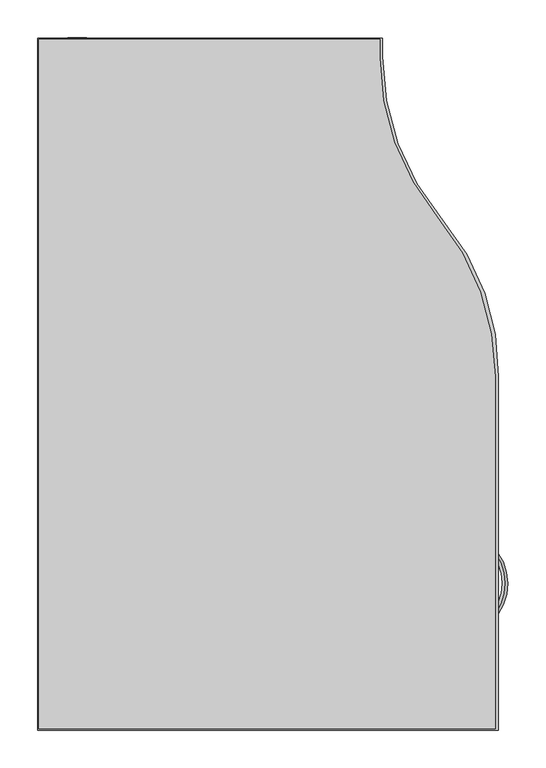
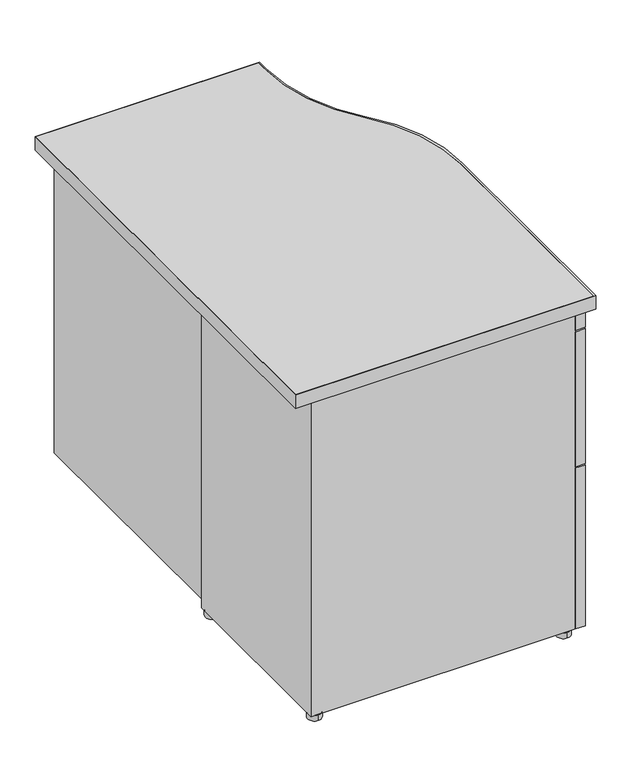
"""IFC4 building model written with IfcOpenShell, lengths in millimetres: furniture geometry, Steelcase - Kick Freestanding - Desk - Single Pedestal Transition Return - Full Modesty Panel : 18D x 36W - Left - File/File."""

from ifc_helpers import new_model, si_unit, point, frame, frame_2d, origin, origin_with_axes, place, context, project, spatial, polyline, circle_curve, ellipse_curve, trimmed, segment, composite_curve, outline, extrude, source, transform, mapped, element, save
from ifc_brep_helpers import plane_surface, cylinder_surface, revolved_surface, extruded_surface, advanced_brep


def furniture_ee4195f4(model_context):
    return source(origin(), model_context, "Body", "SolidModel", [
        advanced_brep(
        [(2760.5907209, -1316.8132511, 586.4818798), (2760.5907209, -1316.8132511, 569.2783404), (2759.9247042, -1217.6632386, 586.4818798), (2759.9247042, -1217.6632386, 569.2783404)],
        [
            (0, 1, ellipse_curve(frame((2760.5907209, -1316.8132511, 577.8801101), z_axis=(-0.7327226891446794, -0.6805273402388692, 0.0), x_axis=(0.0, 0.0, -1.0)), 8.6017697, 3.6448177)),
            (1, 0, ellipse_curve(frame((2760.5907209, -1316.8132511, 577.8801101), z_axis=(-0.7327226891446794, -0.6805273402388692, 0.0), x_axis=(0.0, 0.0, -1.0)), 8.6017697, 3.6448177)),
            (2, 3, ellipse_curve(frame((2759.9247042, -1217.6632386, 577.8801101), z_axis=(-0.7417987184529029, 0.670622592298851, 0.0), x_axis=(0.0, 0.0, -1.0)), 8.6017697, 3.6448177)),
            (3, 2, ellipse_curve(frame((2759.9247042, -1217.6632386, 577.8801101), z_axis=(-0.7417987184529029, 0.670622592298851, 0.0), x_axis=(0.0, 0.0, -1.0)), 8.6017697, 3.6448177)),
            (3, 1, circle_curve(frame((2714.8305889, -1267.5433908, 569.2783404), z_axis=(0.0, 0.0, -1.0), x_axis=(0.6805273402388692, -0.7327226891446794, 0.0)), 67.2421655)),
            (0, 2, circle_curve(frame((2714.8305889, -1267.5433908, 586.4818798), z_axis=(0.0, 0.0, 1.0), x_axis=(0.6805273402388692, -0.7327226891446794, 0.0)), 67.2421655)),
        ],
        [
            plane_surface(frame((2761.3542952, -1317.6353903, 0.0), z_axis=(-0.7327226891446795, -0.6805273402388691, 0.0), x_axis=(0.0, 0.0, 1.0))),
            plane_surface(frame((2760.6771651, -1216.8309157, 0.0), z_axis=(-0.7417987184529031, 0.6706225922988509, 0.0), x_axis=(0.0, 0.0, 1.0))),
            revolved_surface(trimmed(ellipse_curve(frame((2760.5907209, -1316.8132511, 577.8801101), z_axis=(-0.7327226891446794, -0.6805273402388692, 0.0), x_axis=(0.0, 0.0, -1.0)), 8.6017697, 3.6448177), [point((2760.5907209, -1316.8132511, 586.4818798))], [point((2760.5907209, -1316.8132511, 569.2783404))], True, "CARTESIAN"), (2714.8305889, -1267.5433908, 0.0), (0.0, 0.0, 1.0)),
            revolved_surface(trimmed(ellipse_curve(frame((2760.5907209, -1316.8132511, 577.8801101), z_axis=(-0.7327226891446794, -0.6805273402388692, 0.0), x_axis=(0.0, 0.0, -1.0)), 8.6017697, 3.6448177), [point((2760.5907209, -1316.8132511, 569.2783404))], [point((2760.5907209, -1316.8132511, 586.4818798))], True, "CARTESIAN"), (2714.8305889, -1267.5433908, 0.0), (0.0, 0.0, 1.0)),
        ],
        [
            (0, [[1, 2]]),
            (1, [[3, 4]]),
            (2, [[5, -1, 6, -4]]),
            (3, [[-6, -2, -5, -3]]),
        ],
    ),
        advanced_brep(
        [(2760.5907209, -1316.8132511, 293.5881298), (2760.5907209, -1316.8132511, 276.3845904), (2759.9247042, -1217.6632386, 293.5881298), (2759.9247042, -1217.6632386, 276.3845904)],
        [
            (0, 1, ellipse_curve(frame((2760.5907209, -1316.8132511, 284.9863601), z_axis=(-0.7327226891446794, -0.6805273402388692, 0.0), x_axis=(0.0, 0.0, -1.0)), 8.6017697, 3.6448177)),
            (1, 0, ellipse_curve(frame((2760.5907209, -1316.8132511, 284.9863601), z_axis=(-0.7327226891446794, -0.6805273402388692, 0.0), x_axis=(0.0, 0.0, -1.0)), 8.6017697, 3.6448177)),
            (2, 3, ellipse_curve(frame((2759.9247042, -1217.6632386, 284.9863601), z_axis=(-0.7417987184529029, 0.670622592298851, 0.0), x_axis=(0.0, 0.0, -1.0)), 8.6017697, 3.6448177)),
            (3, 2, ellipse_curve(frame((2759.9247042, -1217.6632386, 284.9863601), z_axis=(-0.7417987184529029, 0.670622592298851, 0.0), x_axis=(0.0, 0.0, -1.0)), 8.6017697, 3.6448177)),
            (3, 1, circle_curve(frame((2714.8305889, -1267.5433908, 276.3845904), z_axis=(0.0, 0.0, -1.0), x_axis=(0.6805273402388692, -0.7327226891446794, 0.0)), 67.2421655)),
            (0, 2, circle_curve(frame((2714.8305889, -1267.5433908, 293.5881298), z_axis=(0.0, 0.0, 1.0), x_axis=(0.6805273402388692, -0.7327226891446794, 0.0)), 67.2421655)),
        ],
        [
            plane_surface(frame((2761.3542952, -1317.6353903, 0.0), z_axis=(-0.7327226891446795, -0.6805273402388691, 0.0), x_axis=(0.0, 0.0, 1.0))),
            plane_surface(frame((2760.6771651, -1216.8309157, 0.0), z_axis=(-0.7417987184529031, 0.6706225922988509, 0.0), x_axis=(0.0, 0.0, 1.0))),
            revolved_surface(trimmed(ellipse_curve(frame((2760.5907209, -1316.8132511, 284.9863601), z_axis=(-0.7327226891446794, -0.6805273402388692, 0.0), x_axis=(0.0, 0.0, -1.0)), 8.6017697, 3.6448177), [point((2760.5907209, -1316.8132511, 293.5881298))], [point((2760.5907209, -1316.8132511, 276.3845904))], True, "CARTESIAN"), (2714.8305889, -1267.5433908, 0.0), (0.0, 0.0, 1.0)),
            revolved_surface(trimmed(ellipse_curve(frame((2760.5907209, -1316.8132511, 284.9863601), z_axis=(-0.7327226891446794, -0.6805273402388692, 0.0), x_axis=(0.0, 0.0, -1.0)), 8.6017697, 3.6448177), [point((2760.5907209, -1316.8132511, 276.3845904))], [point((2760.5907209, -1316.8132511, 293.5881298))], True, "CARTESIAN"), (2714.8305889, -1267.5433908, 0.0), (0.0, 0.0, 1.0)),
        ],
        [
            (0, [[1, 2]]),
            (1, [[3, 4]]),
            (2, [[5, -1, 6, -4]]),
            (3, [[-6, -2, -5, -3]]),
        ],
    ),
        advanced_brep(
        [(2762.8455764, -1124.2380273, 671.1566635), (2762.8455764, -1103.9180273, 671.1566635), (2759.7468248, -1124.2380273, 671.1566635), (2759.7468248, -1103.9180273, 671.1566635)],
        [
            (0, 1, circle_curve(frame((2762.8455764, -1114.0780273, 671.1566635), z_axis=(1.0, 0.0, 0.0), x_axis=(0.0, 1.0, 0.0)), 10.16)),
            (1, 0, circle_curve(frame((2762.8455764, -1114.0780273, 671.1566635), z_axis=(1.0, 0.0, 0.0), x_axis=(0.0, 1.0, 0.0)), 10.16)),
            (2, 3, circle_curve(frame((2759.7468248, -1114.0780273, 671.1566635), z_axis=(-1.0, 0.0, 0.0), x_axis=(0.0, 1.0, 0.0)), 10.16)),
            (3, 2, circle_curve(frame((2759.7468248, -1114.0780273, 671.1566635), z_axis=(-1.0, 0.0, 0.0), x_axis=(0.0, 1.0, 0.0)), 10.16)),
            (0, 2),
            (3, 1),
        ],
        [
            plane_surface(frame((2762.8455764, -1103.9180273, 671.1566635), z_axis=(1.0, 0.0, 0.0), x_axis=(0.0, 0.0, 1.0))),
            plane_surface(frame((2759.7468248, -1103.9180273, 671.1566635), z_axis=(-1.0, 0.0, 0.0), x_axis=(0.0, 0.0, -1.0))),
            cylinder_surface(frame((2759.7468248, -1114.0780273, 671.1566635), z_axis=(1.0, 0.0, 0.0), x_axis=(0.0, 1.0, 0.0)), 10.16),
        ],
        [
            (0, [[1, 2]]),
            (1, [[3, 4]]),
            (2, [[-1, 5, -4, 6]]),
            (2, [[-2, -6, -3, -5]]),
        ],
    ),
        advanced_brep(
        [(2762.8455764, -1315.4140492, 589.4466513), (2762.8455764, -1315.4140492, 566.5866513), (2759.7468248, -1315.4140492, 589.4466513), (2759.7468248, -1315.4140492, 566.5866513)],
        [
            (0, 1, ellipse_curve(frame((2762.8455764, -1315.4140492, 578.0166513), z_axis=(1.0, 0.0, 0.0), x_axis=(0.0, 0.0, -1.0)), 11.43, 8.0054005)),
            (1, 0, ellipse_curve(frame((2762.8455764, -1315.4140492, 578.0166513), z_axis=(1.0, 0.0, 0.0), x_axis=(0.0, 0.0, -1.0)), 11.43, 8.0054005)),
            (2, 3, ellipse_curve(frame((2759.7468248, -1315.4140492, 578.0166513), z_axis=(-1.0, 0.0, 0.0), x_axis=(0.0, 0.0, -1.0)), 11.43, 8.0054005)),
            (3, 2, ellipse_curve(frame((2759.7468248, -1315.4140492, 578.0166513), z_axis=(-1.0, 0.0, 0.0), x_axis=(0.0, 0.0, -1.0)), 11.43, 8.0054005)),
            (0, 2),
            (3, 1),
        ],
        [
            plane_surface(frame((2762.8455764, -1103.9180273, 671.1566635), z_axis=(1.0, 0.0, 0.0), x_axis=(0.0, 0.0, 1.0))),
            plane_surface(frame((2759.7468248, -1103.9180273, 671.1566635), z_axis=(-1.0, 0.0, 0.0), x_axis=(0.0, 0.0, -1.0))),
            extruded_surface(trimmed(ellipse_curve(frame((2755.7590248, -1315.4140492, 578.0166513), z_axis=(1.0, 0.0, 0.0), x_axis=(0.0, 0.0, -1.0)), 11.43, 8.0054005), [point((2755.7590248, -1315.4140492, 589.4466513))], [point((2755.7590248, -1315.4140492, 566.5866513))], True, "CARTESIAN"), (3.098751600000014, 0.0, 0.0), 3.098751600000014),
            extruded_surface(trimmed(ellipse_curve(frame((2755.7590248, -1315.4140492, 578.0166513), z_axis=(1.0, 0.0, 0.0), x_axis=(0.0, 0.0, -1.0)), 11.43, 8.0054005), [point((2755.7590248, -1315.4140492, 566.5866513))], [point((2755.7590248, -1315.4140492, 589.4466513))], True, "CARTESIAN"), (3.098751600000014, 0.0, 0.0), 3.098751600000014),
        ],
        [
            (0, [[1, 2]]),
            (1, [[3, 4]]),
            (2, [[-1, 5, -4, 6]]),
            (3, [[-2, -6, -3, -5]]),
        ],
    ),
        advanced_brep(
        [(2762.8455764, -1218.0852323, 589.4466513), (2762.8455764, -1218.0852323, 566.5866513), (2759.7468248, -1218.0852323, 589.4466513), (2759.7468248, -1218.0852323, 566.5866513)],
        [
            (0, 1, ellipse_curve(frame((2762.8455764, -1218.0852323, 578.0166513), z_axis=(1.0, 0.0, 0.0), x_axis=(0.0, 0.0, -1.0)), 11.43, 8.0054005)),
            (1, 0, ellipse_curve(frame((2762.8455764, -1218.0852323, 578.0166513), z_axis=(1.0, 0.0, 0.0), x_axis=(0.0, 0.0, -1.0)), 11.43, 8.0054005)),
            (2, 3, ellipse_curve(frame((2759.7468248, -1218.0852323, 578.0166513), z_axis=(-1.0, 0.0, 0.0), x_axis=(0.0, 0.0, -1.0)), 11.43, 8.0054005)),
            (3, 2, ellipse_curve(frame((2759.7468248, -1218.0852323, 578.0166513), z_axis=(-1.0, 0.0, 0.0), x_axis=(0.0, 0.0, -1.0)), 11.43, 8.0054005)),
            (0, 2),
            (3, 1),
        ],
        [
            plane_surface(frame((2762.8455764, -1103.9180273, 671.1566635), z_axis=(1.0, 0.0, 0.0), x_axis=(0.0, 0.0, 1.0))),
            plane_surface(frame((2759.7468248, -1103.9180273, 671.1566635), z_axis=(-1.0, 0.0, 0.0), x_axis=(0.0, 0.0, -1.0))),
            extruded_surface(trimmed(ellipse_curve(frame((2755.7590248, -1218.0852323, 578.0166513), z_axis=(1.0, 0.0, 0.0), x_axis=(0.0, 0.0, -1.0)), 11.43, 8.0054005), [point((2755.7590248, -1218.0852323, 589.4466513))], [point((2755.7590248, -1218.0852323, 566.5866513))], True, "CARTESIAN"), (3.098751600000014, 0.0, 0.0), 3.098751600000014),
            extruded_surface(trimmed(ellipse_curve(frame((2755.7590248, -1218.0852323, 578.0166513), z_axis=(1.0, 0.0, 0.0), x_axis=(0.0, 0.0, -1.0)), 11.43, 8.0054005), [point((2755.7590248, -1218.0852323, 566.5866513))], [point((2755.7590248, -1218.0852323, 589.4466513))], True, "CARTESIAN"), (3.098751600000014, 0.0, 0.0), 3.098751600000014),
        ],
        [
            (0, [[1, 2]]),
            (1, [[3, 4]]),
            (2, [[-1, 5, -4, 6]]),
            (3, [[-2, -6, -3, -5]]),
        ],
    ),
        advanced_brep(
        [(2762.8455764, -1314.1790775, 296.5864566), (2762.8455764, -1314.1790775, 273.7264566), (2759.7468248, -1314.1790775, 296.5864566), (2759.7468248, -1314.1790775, 273.7264566)],
        [
            (0, 1, ellipse_curve(frame((2762.8455764, -1314.1790775, 285.1564566), z_axis=(1.0, 0.0, 0.0), x_axis=(0.0, 0.0, -1.0)), 11.43, 8.0054005)),
            (1, 0, ellipse_curve(frame((2762.8455764, -1314.1790775, 285.1564566), z_axis=(1.0, 0.0, 0.0), x_axis=(0.0, 0.0, -1.0)), 11.43, 8.0054005)),
            (2, 3, ellipse_curve(frame((2759.7468248, -1314.1790775, 285.1564566), z_axis=(-1.0, 0.0, 0.0), x_axis=(0.0, 0.0, -1.0)), 11.43, 8.0054005)),
            (3, 2, ellipse_curve(frame((2759.7468248, -1314.1790775, 285.1564566), z_axis=(-1.0, 0.0, 0.0), x_axis=(0.0, 0.0, -1.0)), 11.43, 8.0054005)),
            (0, 2),
            (3, 1),
        ],
        [
            plane_surface(frame((2762.8455764, -1103.9180273, 671.1566635), z_axis=(1.0, 0.0, 0.0), x_axis=(0.0, 0.0, 1.0))),
            plane_surface(frame((2759.7468248, -1103.9180273, 671.1566635), z_axis=(-1.0, 0.0, 0.0), x_axis=(0.0, 0.0, -1.0))),
            extruded_surface(trimmed(ellipse_curve(frame((2755.7590248, -1314.1790775, 285.1564566), z_axis=(1.0, 0.0, 0.0), x_axis=(0.0, 0.0, -1.0)), 11.43, 8.0054005), [point((2755.7590248, -1314.1790775, 296.5864566))], [point((2755.7590248, -1314.1790775, 273.7264566))], True, "CARTESIAN"), (3.098751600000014, 0.0, 0.0), 3.098751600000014),
            extruded_surface(trimmed(ellipse_curve(frame((2755.7590248, -1314.1790775, 285.1564566), z_axis=(1.0, 0.0, 0.0), x_axis=(0.0, 0.0, -1.0)), 11.43, 8.0054005), [point((2755.7590248, -1314.1790775, 273.7264566))], [point((2755.7590248, -1314.1790775, 296.5864566))], True, "CARTESIAN"), (3.098751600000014, 0.0, 0.0), 3.098751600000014),
        ],
        [
            (0, [[1, 2]]),
            (1, [[3, 4]]),
            (2, [[-1, 5, -4, 6]]),
            (3, [[-2, -6, -3, -5]]),
        ],
    ),
        advanced_brep(
        [(2762.8455764, -1216.8502606, 296.5864566), (2762.8455764, -1216.8502606, 273.7264566), (2759.7468248, -1216.8502606, 296.5864566), (2759.7468248, -1216.8502606, 273.7264566)],
        [
            (0, 1, ellipse_curve(frame((2762.8455764, -1216.8502606, 285.1564566), z_axis=(1.0, 0.0, 0.0), x_axis=(0.0, 0.0, -1.0)), 11.43, 8.0054005)),
            (1, 0, ellipse_curve(frame((2762.8455764, -1216.8502606, 285.1564566), z_axis=(1.0, 0.0, 0.0), x_axis=(0.0, 0.0, -1.0)), 11.43, 8.0054005)),
            (2, 3, ellipse_curve(frame((2759.7468248, -1216.8502606, 285.1564566), z_axis=(-1.0, 0.0, 0.0), x_axis=(0.0, 0.0, -1.0)), 11.43, 8.0054005)),
            (3, 2, ellipse_curve(frame((2759.7468248, -1216.8502606, 285.1564566), z_axis=(-1.0, 0.0, 0.0), x_axis=(0.0, 0.0, -1.0)), 11.43, 8.0054005)),
            (0, 2),
            (3, 1),
        ],
        [
            plane_surface(frame((2762.8455764, -1103.9180273, 671.1566635), z_axis=(1.0, 0.0, 0.0), x_axis=(0.0, 0.0, 1.0))),
            plane_surface(frame((2759.7468248, -1103.9180273, 671.1566635), z_axis=(-1.0, 0.0, 0.0), x_axis=(0.0, 0.0, -1.0))),
            extruded_surface(trimmed(ellipse_curve(frame((2755.7590248, -1216.8502606, 285.1564566), z_axis=(1.0, 0.0, 0.0), x_axis=(0.0, 0.0, -1.0)), 11.43, 8.0054005), [point((2755.7590248, -1216.8502606, 296.5864566))], [point((2755.7590248, -1216.8502606, 273.7264566))], True, "CARTESIAN"), (3.098751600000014, 0.0, 0.0), 3.098751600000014),
            extruded_surface(trimmed(ellipse_curve(frame((2755.7590248, -1216.8502606, 285.1564566), z_axis=(1.0, 0.0, 0.0), x_axis=(0.0, 0.0, -1.0)), 11.43, 8.0054005), [point((2755.7590248, -1216.8502606, 273.7264566))], [point((2755.7590248, -1216.8502606, 296.5864566))], True, "CARTESIAN"), (3.098751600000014, 0.0, 0.0), 3.098751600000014),
        ],
        [
            (0, [[1, 2]]),
            (1, [[3, 4]]),
            (2, [[-1, 5, -4, 6]]),
            (3, [[-2, -6, -3, -5]]),
        ],
    ),
        extrude(outline(polyline([(2759.7468248, -1062.9776054), (2759.7468248, -1447.9145982), (2739.8077764, -1447.9145982), (2739.8077764, -1062.9776054), (2759.7468248, -1062.9776054)])), frame((0.0, 0.0, 360.6545895), z_axis=(0.0, 0.0, 1.0), x_axis=(1.0, 0.0, 0.0)), (0.0, 0.0, 1.0), 288.9250242),
        extrude(outline(polyline([(2759.7468248, -1062.9776054), (2759.7468248, -1447.9145982), (2739.8077764, -1447.9145982), (2739.8077764, -1062.9776054), (2759.7468248, -1062.9776054)])), frame((0.0, 0.0, 12.7), z_axis=(0.0, 0.0, 1.0), x_axis=(1.0, 0.0, 0.0)), (0.0, 0.0, 1.0), 344.7796016),
        extrude(outline(polyline([(2759.7468248, -1062.9776054), (2759.7468248, -1447.9145982), (2739.8077764, -1447.9145982), (2739.8077764, -1062.9776054), (2759.7468248, -1062.9776054)])), frame((0.0, 0.0, 652.7545653), z_axis=(0.0, 0.0, 1.0), x_axis=(1.0, 0.0, 0.0)), (0.0, 0.0, 1.0), 40.6400339),
        extrude(outline(composite_curve([segment(trimmed(circle_curve(frame_2d((2217.7074425, -1435.3382652)), 13.97), [point((2217.7074425, -1449.3082652))], [point((2217.7074425, -1421.3682652))], False, "CARTESIAN"), True, "CONTINUOUS"), segment(trimmed(circle_curve(frame_2d((2217.7074425, -1435.3382652)), 13.97), [point((2217.7074425, -1421.3682652))], [point((2217.7074425, -1449.3082652))], False, "CARTESIAN"), True, "CONTINUOUS")], self_intersect=False)), origin_with_axes(), (0.0, 0.0, 1.0), 12.446),
        extrude(outline(composite_curve([segment(trimmed(circle_curve(frame_2d((2722.6594425, -1435.3382652)), 13.97), [point((2722.6594425, -1449.3082652))], [point((2722.6594425, -1421.3682652))], False, "CARTESIAN"), True, "CONTINUOUS"), segment(trimmed(circle_curve(frame_2d((2722.6594425, -1435.3382652)), 13.97), [point((2722.6594425, -1421.3682652))], [point((2722.6594425, -1449.3082652))], False, "CARTESIAN"), True, "CONTINUOUS")], self_intersect=False)), origin_with_axes(), (0.0, 0.0, 1.0), 12.446),
        extrude(outline(composite_curve([segment(trimmed(circle_curve(frame_2d((2217.7074425, -1075.6776054)), 13.97), [point((2217.7074425, -1089.6476054))], [point((2217.7074425, -1061.7076054))], False, "CARTESIAN"), True, "CONTINUOUS"), segment(trimmed(circle_curve(frame_2d((2217.7074425, -1075.6776054)), 13.97), [point((2217.7074425, -1061.7076054))], [point((2217.7074425, -1089.6476054))], False, "CARTESIAN"), True, "CONTINUOUS")], self_intersect=False)), origin_with_axes(), (0.0, 0.0, 1.0), 12.446),
        extrude(outline(composite_curve([segment(trimmed(circle_curve(frame_2d((2723.4604252, -1075.6776054)), 12.7), [point((2723.4604252, -1088.3776054))], [point((2723.4604252, -1062.9776054))], False, "CARTESIAN"), True, "CONTINUOUS"), segment(trimmed(circle_curve(frame_2d((2723.4604252, -1075.6776054)), 12.7), [point((2723.4604252, -1062.9776054))], [point((2723.4604252, -1088.3776054))], False, "CARTESIAN"), True, "CONTINUOUS")], self_intersect=False)), origin_with_axes(), (0.0, 0.0, 1.0), 12.446),
        extrude(outline(polyline([(2203.2328248, -1062.9776054), (2739.8077764, -1062.9776054), (2739.8077764, -1447.9145982), (2203.2328248, -1447.9145982), (2203.2328248, -1062.9776054)]), holes=[polyline([(2228.6328241, -1082.8149846), (2228.6328241, -1428.0771996), (2719.2338142, -1428.0771996), (2719.2338142, -1082.8149846), (2228.6328241, -1082.8149846)])]), frame((0.0, 0.0, 12.446), z_axis=(0.0, 0.0, 1.0), x_axis=(1.0, 0.0, 0.0)), (0.0, 0.0, 1.0), 682.498),
        extrude(outline(composite_curve([segment(polyline([(2616.8176592, -547.8051152), (2616.8176592, -572.1320079)]), True, "CONTINUOUS"), segment(trimmed(circle_curve(frame_2d((2941.6463505, -574.5942763)), 324.8380233), [point((2616.8176592, -572.1320079))], [point((2692.5587903, -783.1011797))], True, "CARTESIAN"), True, "CONTINUOUS"), segment(trimmed(circle_curve(frame_2d((2440.4841513, -994.1085152)), 328.7335079), [point((2692.5587903, -783.1011797))], [point((2769.2176592, -994.1085152))], False, "CARTESIAN"), True, "CONTINUOUS"), segment(polyline([(2769.2176592, -994.1085152), (2769.2176592, -1459.4619332), (2164.8500425, -1459.4619332), (2164.8500425, -547.8051152), (2616.8176592, -547.8051152)]), True, "CONTINUOUS")], self_intersect=False)), frame((0.0, 0.0, 694.944), z_axis=(0.0, 0.0, 1.0), x_axis=(1.0, 0.0, 0.0)), (0.0, 0.0, 1.0), 28.956),
        extrude(outline(composite_curve([segment(polyline([(2619.7894255, -546.8145152), (2619.7894255, -571.0836731)]), True, "CONTINUOUS"), segment(trimmed(circle_curve(frame_2d((2951.3460478, -571.0836731)), 331.5566223), [point((2619.7894255, -571.0836731))], [point((2699.261298, -786.4509703))], True, "CARTESIAN"), True, "CONTINUOUS"), segment(trimmed(circle_curve(frame_2d((2463.6949436, -987.7058619)), 309.8306613), [point((2699.261298, -786.4509703))], [point((2773.4594425, -994.1085152))], False, "CARTESIAN"), True, "CONTINUOUS"), segment(polyline([(2773.4594425, -994.1085152), (2773.4594425, -1461.2145152), (2163.8594425, -1461.2145152), (2163.8594425, -546.8145152), (2619.7894255, -546.8145152)]), True, "CONTINUOUS")], self_intersect=False), holes=[composite_curve([segment(polyline([(2616.8176592, -547.8051152), (2164.8500425, -547.8051152), (2164.8500425, -1459.4619332), (2769.2176592, -1459.4619332), (2769.2176592, -994.1085152)]), True, "CONTINUOUS"), segment(trimmed(circle_curve(frame_2d((2440.4841513, -994.1085152)), 328.7335079), [point((2769.2176592, -994.1085152))], [point((2692.5587903, -783.1011797))], True, "CARTESIAN"), True, "CONTINUOUS"), segment(trimmed(circle_curve(frame_2d((2941.6463505, -574.5942763)), 324.8380233), [point((2692.5587903, -783.1011797))], [point((2616.8176592, -572.1320079))], False, "CARTESIAN"), True, "CONTINUOUS"), segment(polyline([(2616.8176592, -572.1320079), (2616.8176592, -547.8051152)]), True, "CONTINUOUS")], self_intersect=False)]), frame((0.0, 0.0, 694.944), z_axis=(0.0, 0.0, 1.0), x_axis=(1.0, 0.0, 0.0)), (0.0, 0.0, 1.0), 28.956),
        extrude(outline(polyline([(2228.6328241, -546.0525152), (2228.6328241, -1062.9776054), (2203.2328248, -1062.9776054), (2203.2328248, -546.0525152), (2228.6328241, -546.0525152)])), frame((0.0, 0.0, 31.242), z_axis=(0.0, 0.0, 1.0), x_axis=(1.0, 0.0, 0.0)), (0.0, 0.0, 1.0), 663.702),
    ])


if __name__ == "__main__":
    model = new_model("IFC4")
    model_context = context("Model", 3, world=origin())
    ifc_project = project(units=[si_unit("LENGTHUNIT", "METRE", prefix="MILLI")], contexts=[model_context])
    site = spatial("IfcSite", under=ifc_project)
    building = spatial("IfcBuilding", under=site)
    placement = place(None, origin())
    furniture_shape = furniture_ee4195f4(model_context)
    element("IfcFurniture", 1, ObjectType="Steelcase - Kick Freestanding - Desk - Single Pedestal Transition Return - Full Modesty Panel : 18D x 36W - Left - File/File", at=placement, inside=building, context=model_context, shape_type="MappedRepresentation", body=[
        mapped(furniture_shape, transform((0.0, 0.0, 0.0), x_axis=(1.0, 0.0, 0.0), y_axis=(0.0, 1.0, 0.0), z_axis=(0.0, 0.0, 1.0))),
    ])
    save(model, "model.ifc")
